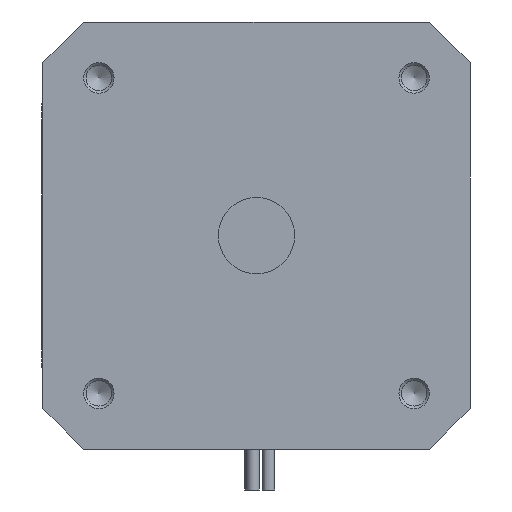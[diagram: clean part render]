
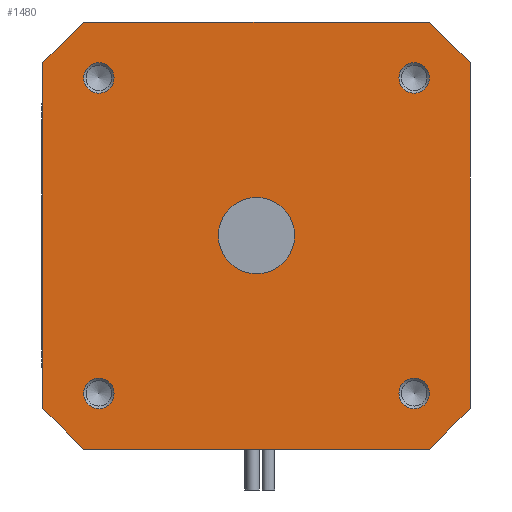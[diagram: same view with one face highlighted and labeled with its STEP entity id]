
A CAD part, front view. The second image highlights one B-rep face of the part: STEP entity #1480.
In plain terms, the highlighted planar face has unit normal (0, -1, 0).
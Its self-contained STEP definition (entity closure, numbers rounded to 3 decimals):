
#40=FACE_BOUND('',#361,.T.);
#41=FACE_BOUND('',#362,.T.);
#42=FACE_BOUND('',#363,.T.);
#43=FACE_BOUND('',#364,.T.);
#44=FACE_BOUND('',#365,.T.);
#73=CIRCLE('',#1616,3.75);
#74=CIRCLE('',#1617,1.5);
#75=CIRCLE('',#1618,1.5);
#76=CIRCLE('',#1619,1.5);
#77=CIRCLE('',#1620,1.5);
#146=PLANE('',#1615);
#267=FACE_OUTER_BOUND('',#360,.T.);
#360=EDGE_LOOP('',(#1193,#1194,#1195,#1196,#1197,#1198,#1199,#1200));
#361=EDGE_LOOP('',(#1201));
#362=EDGE_LOOP('',(#1202));
#363=EDGE_LOOP('',(#1203));
#364=EDGE_LOOP('',(#1204));
#365=EDGE_LOOP('',(#1205));
#465=LINE('',#2284,#592);
#469=LINE('',#2292,#596);
#475=LINE('',#2304,#602);
#481=LINE('',#2317,#608);
#489=LINE('',#2335,#616);
#504=LINE('',#2369,#631);
#512=LINE('',#2384,#639);
#515=LINE('',#2389,#642);
#592=VECTOR('',#1840,10.);
#596=VECTOR('',#1846,10.);
#602=VECTOR('',#1856,10.);
#608=VECTOR('',#1866,10.);
#616=VECTOR('',#1878,10.);
#631=VECTOR('',#1909,10.);
#639=VECTOR('',#1923,10.);
#642=VECTOR('',#1928,10.);
#721=VERTEX_POINT('',#2281);
#722=VERTEX_POINT('',#2283);
#725=VERTEX_POINT('',#2291);
#729=VERTEX_POINT('',#2303);
#733=VERTEX_POINT('',#2315);
#734=VERTEX_POINT('',#2316);
#741=VERTEX_POINT('',#2333);
#742=VERTEX_POINT('',#2334);
#759=VERTEX_POINT('',#2390);
#760=VERTEX_POINT('',#2392);
#761=VERTEX_POINT('',#2394);
#762=VERTEX_POINT('',#2396);
#763=VERTEX_POINT('',#2398);
#871=EDGE_CURVE('',#721,#722,#465,.T.);
#875=EDGE_CURVE('',#721,#725,#469,.T.);
#881=EDGE_CURVE('',#729,#722,#475,.T.);
#887=EDGE_CURVE('',#733,#734,#481,.T.);
#895=EDGE_CURVE('',#741,#742,#489,.T.);
#913=EDGE_CURVE('',#733,#725,#504,.T.);
#922=EDGE_CURVE('',#741,#734,#512,.T.);
#925=EDGE_CURVE('',#729,#742,#515,.T.);
#926=EDGE_CURVE('',#759,#759,#73,.T.);
#927=EDGE_CURVE('',#760,#760,#74,.T.);
#928=EDGE_CURVE('',#761,#761,#75,.T.);
#929=EDGE_CURVE('',#762,#762,#76,.T.);
#930=EDGE_CURVE('',#763,#763,#77,.T.);
#1193=ORIENTED_EDGE('',*,*,#875,.T.);
#1194=ORIENTED_EDGE('',*,*,#913,.F.);
#1195=ORIENTED_EDGE('',*,*,#887,.T.);
#1196=ORIENTED_EDGE('',*,*,#922,.F.);
#1197=ORIENTED_EDGE('',*,*,#895,.T.);
#1198=ORIENTED_EDGE('',*,*,#925,.F.);
#1199=ORIENTED_EDGE('',*,*,#881,.T.);
#1200=ORIENTED_EDGE('',*,*,#871,.F.);
#1201=ORIENTED_EDGE('',*,*,#926,.T.);
#1202=ORIENTED_EDGE('',*,*,#927,.T.);
#1203=ORIENTED_EDGE('',*,*,#928,.T.);
#1204=ORIENTED_EDGE('',*,*,#929,.T.);
#1205=ORIENTED_EDGE('',*,*,#930,.T.);
#1480=ADVANCED_FACE('',(#267,#40,#41,#42,#43,#44),#146,.F.);
#1615=AXIS2_PLACEMENT_3D('',#2388,#1926,#1927);
#1616=AXIS2_PLACEMENT_3D('',#2391,#1929,#1930);
#1617=AXIS2_PLACEMENT_3D('',#2393,#1931,#1932);
#1618=AXIS2_PLACEMENT_3D('',#2395,#1933,#1934);
#1619=AXIS2_PLACEMENT_3D('',#2397,#1935,#1936);
#1620=AXIS2_PLACEMENT_3D('',#2399,#1937,#1938);
#1840=DIRECTION('',(0.,0.,1.));
#1846=DIRECTION('',(0.707,0.,-0.707));
#1856=DIRECTION('',(-0.707,0.,-0.707));
#1866=DIRECTION('',(0.707,0.,0.707));
#1878=DIRECTION('',(-0.707,0.,0.707));
#1909=DIRECTION('',(-1.,0.,0.));
#1923=DIRECTION('',(0.,0.,-1.));
#1926=DIRECTION('center_axis',(0.,1.,0.));
#1927=DIRECTION('ref_axis',(0.,0.,1.));
#1928=DIRECTION('',(1.,0.,0.));
#1929=DIRECTION('center_axis',(0.,1.,0.));
#1930=DIRECTION('ref_axis',(1.,0.,0.));
#1931=DIRECTION('center_axis',(0.,1.,0.));
#1932=DIRECTION('ref_axis',(1.,0.,0.));
#1933=DIRECTION('center_axis',(0.,1.,0.));
#1934=DIRECTION('ref_axis',(1.,0.,0.));
#1935=DIRECTION('center_axis',(0.,1.,0.));
#1936=DIRECTION('ref_axis',(1.,0.,0.));
#1937=DIRECTION('center_axis',(0.,1.,0.));
#1938=DIRECTION('ref_axis',(1.,0.,0.));
#2281=CARTESIAN_POINT('',(-42.,0.,-38.));
#2283=CARTESIAN_POINT('',(-42.,0.,-4.));
#2284=CARTESIAN_POINT('',(-42.,0.,-42.));
#2291=CARTESIAN_POINT('',(-38.,0.,-42.));
#2292=CARTESIAN_POINT('',(-39.,0.,-41.));
#2303=CARTESIAN_POINT('',(-38.,0.,0.));
#2304=CARTESIAN_POINT('',(-41.,0.,-3.));
#2315=CARTESIAN_POINT('',(-4.,0.,-42.));
#2316=CARTESIAN_POINT('',(0.,0.,-38.));
#2317=CARTESIAN_POINT('',(-1.,0.,-39.));
#2333=CARTESIAN_POINT('',(0.,0.,-4.));
#2334=CARTESIAN_POINT('',(-4.,0.,0.));
#2335=CARTESIAN_POINT('',(-3.,0.,-1.));
#2369=CARTESIAN_POINT('',(0.,0.,-42.));
#2384=CARTESIAN_POINT('',(0.,0.,0.));
#2388=CARTESIAN_POINT('Origin',(-21.,0.,-21.));
#2389=CARTESIAN_POINT('',(-42.,0.,0.));
#2390=CARTESIAN_POINT('',(-24.75,0.,-21.));
#2391=CARTESIAN_POINT('Origin',(-21.,0.,-21.));
#2392=CARTESIAN_POINT('',(-7.,0.,-36.5));
#2393=CARTESIAN_POINT('Origin',(-5.5,0.,-36.5));
#2394=CARTESIAN_POINT('',(-7.,0.,-5.5));
#2395=CARTESIAN_POINT('Origin',(-5.5,0.,-5.5));
#2396=CARTESIAN_POINT('',(-38.,0.,-5.5));
#2397=CARTESIAN_POINT('Origin',(-36.5,0.,-5.5));
#2398=CARTESIAN_POINT('',(-38.,0.,-36.5));
#2399=CARTESIAN_POINT('Origin',(-36.5,0.,-36.5));
